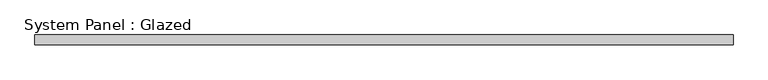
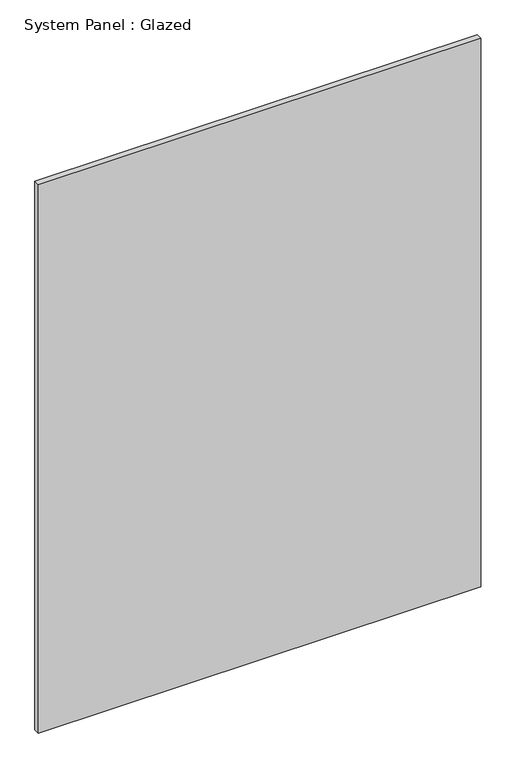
"""IFC4 building model written with IfcOpenShell, lengths in millimetres: plate geometry, System Panel : Glazed."""

from ifc_helpers import new_model, si_unit, origin, origin_with_axes, place, context, project, spatial, polyline, outline, extrude, source, transform, mapped, element, save


def system_panel_glazed_4817d5da(model_context):
    return source(origin(), model_context, "Body", "SweptSolid", [
        extrude(outline(polyline([(906.4625, 19.05), (-906.4625, 19.05), (-906.4625, 44.45), (906.4625, 44.45), (906.4625, 19.05)])), origin_with_axes(), (0.0, 0.0, 1.0), 2374.9),
    ])


if __name__ == "__main__":
    model = new_model("IFC4")
    model_context = context("Model", 3, world=origin())
    ifc_project = project(units=[si_unit("LENGTHUNIT", "METRE", prefix="MILLI")], contexts=[model_context])
    site = spatial("IfcSite", under=ifc_project)
    building = spatial("IfcBuilding", under=site)
    placement = place(None, origin())
    system_panel_glazed_shape = system_panel_glazed_4817d5da(model_context)
    element("IfcPlate", 1, ObjectType="System Panel : Glazed", at=placement, inside=building, context=model_context, shape_type="MappedRepresentation", body=[
        mapped(system_panel_glazed_shape, transform((0.0, 0.0, 0.0), x_axis=(1.0, 0.0, 0.0), y_axis=(0.0, 1.0, 0.0), z_axis=(0.0, 0.0, 1.0))),
    ])
    save(model, "model.ifc")
